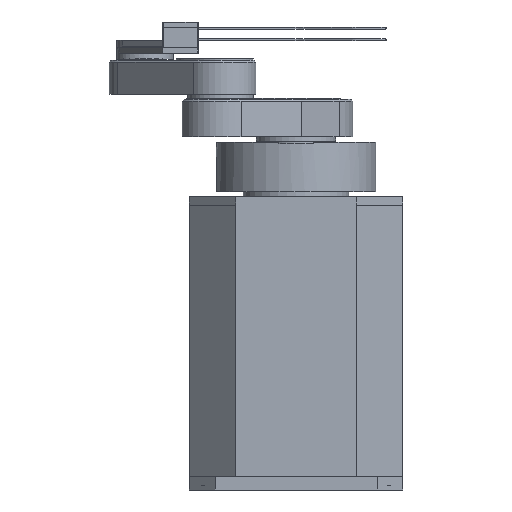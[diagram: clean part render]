
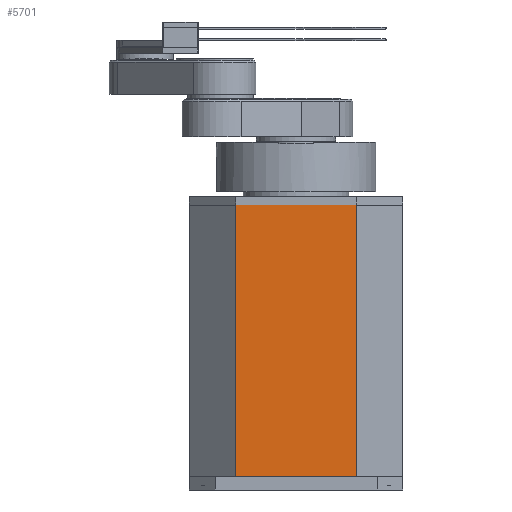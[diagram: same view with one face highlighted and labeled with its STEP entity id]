
A CAD part, front view. The second image highlights one B-rep face of the part: STEP entity #5701.
In plain terms, the highlighted planar face has unit normal (0, -1, 0).
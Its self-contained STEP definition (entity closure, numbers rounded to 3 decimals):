
#243=LINE('',#8841,#793);
#271=LINE('',#8897,#821);
#273=LINE('',#8901,#823);
#274=LINE('',#8902,#824);
#793=VECTOR('',#7121,10.);
#821=VECTOR('',#7175,10.);
#823=VECTOR('',#7179,10.);
#824=VECTOR('',#7180,10.);
#1275=PLANE('',#6278);
#1689=FACE_OUTER_BOUND('',#2059,.T.);
#2059=EDGE_LOOP('',(#4370,#4371,#4372,#4373));
#2791=VERTEX_POINT('',#8838);
#2792=VERTEX_POINT('',#8840);
#2807=VERTEX_POINT('',#8896);
#2808=VERTEX_POINT('',#8900);
#3386=EDGE_CURVE('',#2792,#2791,#243,.T.);
#3414=EDGE_CURVE('',#2807,#2792,#271,.T.);
#3416=EDGE_CURVE('',#2808,#2791,#273,.T.);
#3417=EDGE_CURVE('',#2807,#2808,#274,.T.);
#4370=ORIENTED_EDGE('',*,*,#3386,.T.);
#4371=ORIENTED_EDGE('',*,*,#3416,.F.);
#4372=ORIENTED_EDGE('',*,*,#3417,.F.);
#4373=ORIENTED_EDGE('',*,*,#3414,.T.);
#5701=ADVANCED_FACE('',(#1689),#1275,.T.);
#6278=AXIS2_PLACEMENT_3D('',#8899,#7177,#7178);
#7121=DIRECTION('',(-1.,0.,0.));
#7175=DIRECTION('',(0.,0.,1.));
#7177=DIRECTION('center_axis',(0.,-1.,0.));
#7178=DIRECTION('ref_axis',(0.,0.,-1.));
#7179=DIRECTION('',(0.,0.,1.));
#7180=DIRECTION('',(-1.,0.,0.));
#8838=CARTESIAN_POINT('',(-67.999,-119.999,320.));
#8840=CARTESIAN_POINT('',(67.999,-119.999,320.));
#8841=CARTESIAN_POINT('',(67.999,-119.999,320.));
#8896=CARTESIAN_POINT('',(67.999,-119.999,15.));
#8897=CARTESIAN_POINT('',(67.999,-119.999,15.));
#8899=CARTESIAN_POINT('Origin',(67.999,-119.999,15.));
#8900=CARTESIAN_POINT('',(-67.999,-119.999,15.));
#8901=CARTESIAN_POINT('',(-67.999,-119.999,15.));
#8902=CARTESIAN_POINT('',(34.,-119.999,15.));
